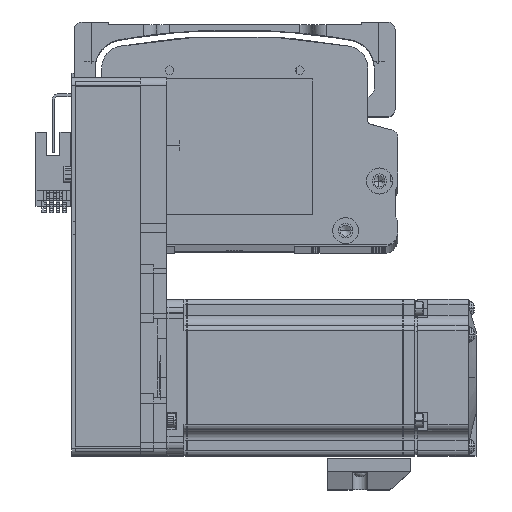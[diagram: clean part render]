
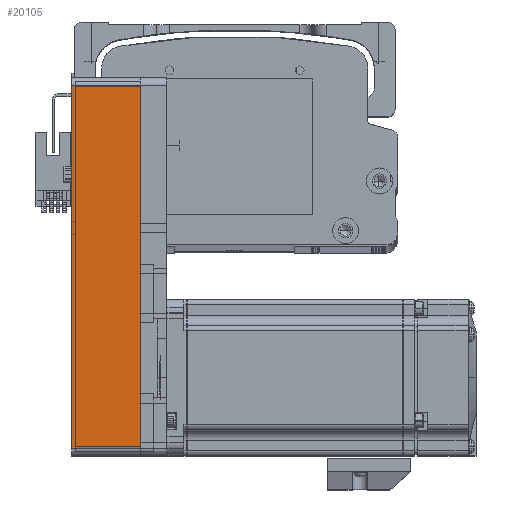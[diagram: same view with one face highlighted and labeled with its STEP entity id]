
A CAD part, top view. The second image highlights one B-rep face of the part: STEP entity #20105.
In plain terms, the highlighted planar face has unit normal (0, 0, 1) as drawn and (0, 1, 0) by its records, which use the part's own axes.
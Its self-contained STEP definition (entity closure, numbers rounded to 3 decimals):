
#1556 = ORIENTED_EDGE ( 'NONE', *, *, #68560, .T. ) ;
#8681 = DIRECTION ( 'NONE',  ( -1., 0., 0. ) ) ;
#13767 = VECTOR ( 'NONE', #46596, 1000. ) ;
#20105 = ADVANCED_FACE ( 'NONE', ( #76428 ), #32126, .F. ) ;
#20186 = EDGE_CURVE ( 'NONE', #28827, #21044, #31733, .T. ) ;
#21044 = VERTEX_POINT ( 'NONE', #50518 ) ;
#26049 = CARTESIAN_POINT ( 'NONE',  ( 72.5, 30., 26.5 ) ) ;
#27376 = VECTOR ( 'NONE', #8681, 1000. ) ;
#28827 = VERTEX_POINT ( 'NONE', #32455 ) ;
#31733 = LINE ( 'NONE', #86758, #13767 ) ;
#32126 = PLANE ( 'NONE',  #72961 ) ;
#32426 = DIRECTION ( 'NONE',  ( 0., -1., 0. ) ) ;
#32455 = CARTESIAN_POINT ( 'NONE',  ( -69.5, 30., 0. ) ) ;
#33388 = DIRECTION ( 'NONE',  ( -1., 0., 0. ) ) ;
#34565 = VERTEX_POINT ( 'NONE', #82971 ) ;
#36247 = CARTESIAN_POINT ( 'NONE',  ( 69.5, 30., 26.5 ) ) ;
#36407 = LINE ( 'NONE', #36247, #72357 ) ;
#45301 = LINE ( 'NONE', #82509, #27376 ) ;
#45866 = ORIENTED_EDGE ( 'NONE', *, *, #20186, .T. ) ;
#46596 = DIRECTION ( 'NONE',  ( 0., 0., 1. ) ) ;
#49546 = DIRECTION ( 'NONE',  ( 0., 0., -1. ) ) ;
#50518 = CARTESIAN_POINT ( 'NONE',  ( -69.5, 30., 26.5 ) ) ;
#56245 = EDGE_LOOP ( 'NONE', ( #1556, #45866, #80921, #70843 ) ) ;
#57896 = EDGE_CURVE ( 'NONE', #34565, #21044, #86095, .T. ) ;
#61421 = CARTESIAN_POINT ( 'NONE',  ( 69.5, 30., 0. ) ) ;
#68175 = VECTOR ( 'NONE', #33388, 1000. ) ;
#68560 = EDGE_CURVE ( 'NONE', #84877, #28827, #45301, .T. ) ;
#70072 = EDGE_CURVE ( 'NONE', #34565, #84877, #36407, .T. ) ;
#70843 = ORIENTED_EDGE ( 'NONE', *, *, #70072, .T. ) ;
#72357 = VECTOR ( 'NONE', #49546, 1000. ) ;
#72898 = CARTESIAN_POINT ( 'NONE',  ( 72.5, 30., 26.5 ) ) ;
#72961 = AXIS2_PLACEMENT_3D ( 'NONE', #72898, #32426, #79715 ) ;
#76428 = FACE_OUTER_BOUND ( 'NONE', #56245, .T. ) ;
#79715 = DIRECTION ( 'NONE',  ( 1., 0., 0. ) ) ;
#80921 = ORIENTED_EDGE ( 'NONE', *, *, #57896, .F. ) ;
#82509 = CARTESIAN_POINT ( 'NONE',  ( 72.5, 30., 0. ) ) ;
#82971 = CARTESIAN_POINT ( 'NONE',  ( 69.5, 30., 26.5 ) ) ;
#84877 = VERTEX_POINT ( 'NONE', #61421 ) ;
#86095 = LINE ( 'NONE', #26049, #68175 ) ;
#86758 = CARTESIAN_POINT ( 'NONE',  ( -69.5, 30., 26.5 ) ) ;
